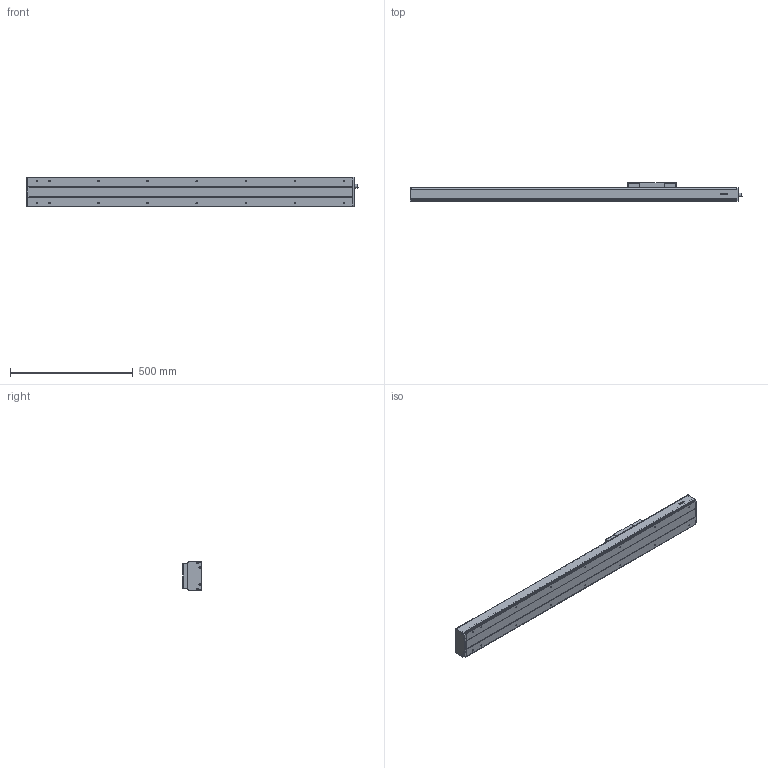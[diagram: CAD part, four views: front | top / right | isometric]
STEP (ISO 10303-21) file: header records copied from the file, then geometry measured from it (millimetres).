
FILE_DESCRIPTION(/* description */ (''),/* implementation_level */ '2;1');
FILE_NAME(/* name */ 'D:\混合母檔20191031\混和母檔\混和母檔\bin\Debug\Download\3D\KS120-20C-850AFI\KS120-20C-850AFI.stp',/* time_stamp */ '2019-11-04T15:27:48+08:00',/* author */ ('user'),/* organization */ (''),/* preprocessor_version */ 'ST-DEVELOPER v16.13',/* originating_system */ 'Autodesk Inventor 2018',/* authorisation */ '');
FILE_SCHEMA (('AUTOMOTIVE_DESIGN { 1 0 10303 214 3 1 1 }'));
Length unit declared in the file: millimetre
Products named in the file (3): KS120-20C-850AFI; KS120-FI; KS120-SL
Assembly tree (2 placements, depth 2):
  KS120-20C-850AFI
    KS120-FI
    KS120-SL
Bounding box: 1354.5 x 77 x 120 mm (x, y, z)
Volume: 3156754.2 mm3; surface area: 1053206.4 mm2
Topology: 4 solids, 11 shells, 1003 faces, 2577 edges, 1664 vertices
Faces by surface type: plane 575, cylinder 190, bspline 136, cone 84, torus 14, sphere 4
Full cylindrical faces by diameter (mm): 2.459 x6, 3.242 x4, 4 x32, 4.3 x4, 4.5 x12, 4.917 x16, 6 x6, 7 x4, 8 x9, 8.4 x12, 10.437 x1, 12 x2, 14 x1, 15 x1, 15.538 x1, 19 x1, 28 x1, 30 x1
Entity records: 33185 total; most frequent: CARTESIAN_POINT 10642, ORIENTED_EDGE 4578, DIRECTION 4201, EDGE_CURVE 2287, VERTEX_POINT 1578, LINE 1533, VECTOR 1533, AXIS2_PLACEMENT_3D 1334
